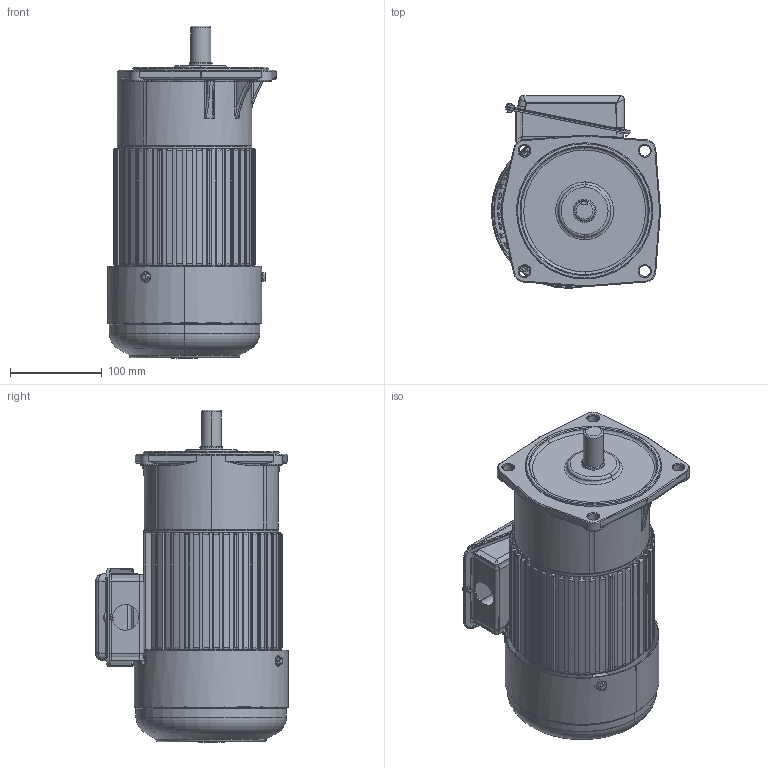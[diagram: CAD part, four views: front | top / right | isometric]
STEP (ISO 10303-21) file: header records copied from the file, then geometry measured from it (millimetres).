
FILE_DESCRIPTION (( 'STEP AP203' ), '1' );
FILE_NAME ('单相400W2#立式.STEP', '2015-10-23T07:37:34', ( '微软中国' ), ( '微软用户' ), 'SwSTEP 2.0', 'SolidWorks 2009', '' );
FILE_SCHEMA (( 'CONFIG_CONTROL_DESIGN' ));
Products named in the file (10): 等眈 瑞欶400W; 等眈諉盄碟窒璃; 等眈諉盄碟裔; 等眈400W2#蕾宒; 400W儂褲; 鞠褒蹟邡_GB_FASTENER_BOLT_HFBB M5X10-N; 2#蕾宒熬厒ん; 棠憤迖殤400W; 等眈諉盄碟釱; Cross recessed pan head screws GB_GB_CROSS_SCREWS_TYPE1 M5X6-6  H type-N
Assembly tree (11 placements, depth 3):
  等眈400W2#蕾宒
    等眈諉盄碟窒璃
      等眈諉盄碟裔
      等眈諉盄碟釱
      Cross recessed pan head screws GB_GB_CROSS_SCREWS_TYPE1 M5X6-6  H type-N
    鞠褒蹟邡_GB_FASTENER_BOLT_HFBB M5X10-N  x3
    2#蕾宒熬厒ん
    400W儂褲
    棠憤迖殤400W
    等眈 瑞欶400W
Bounding box: 183.79 x 209.39 x 361 mm (x, y, z)
Volume: 2200156.2 mm3; surface area: 580688.6 mm2
Topology: 10 solids, 10 shells, 1460 faces, 3998 edges, 2574 vertices
Faces by surface type: plane 703, cylinder 449, bspline 238, torus 34, cone 34, sphere 2
Entity records: 57064 total; most frequent: CARTESIAN_POINT 21226, ORIENTED_EDGE 7770, DIRECTION 6492, EDGE_CURVE 3885, VERTEX_POINT 2520, VECTOR 2186, LINE 2186, AXIS2_PLACEMENT_3D 2153
